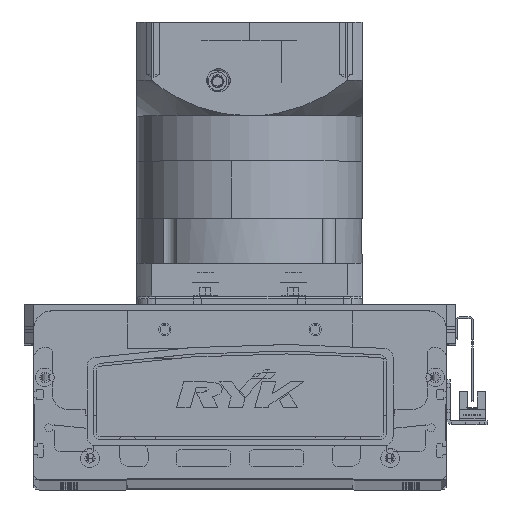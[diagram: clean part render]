
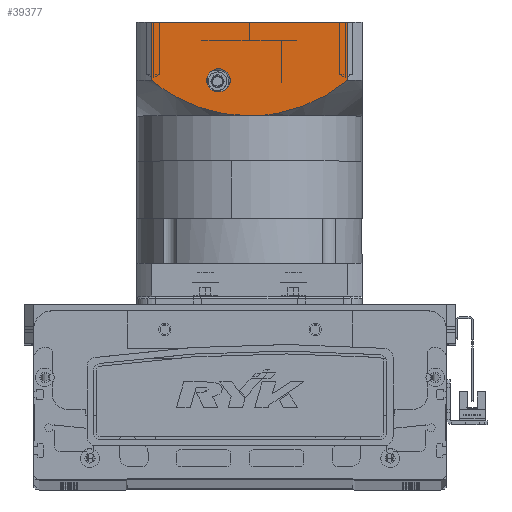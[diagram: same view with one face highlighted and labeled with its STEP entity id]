
A CAD part, top view. The second image highlights one B-rep face of the part: STEP entity #39377.
In plain terms, the highlighted planar face has unit normal (0, 0, 1) as drawn and (0, -1, 0) by its records, which use the part's own axes.
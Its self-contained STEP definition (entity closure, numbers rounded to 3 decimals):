
#897 = CARTESIAN_POINT ( 'NONE',  ( 44.553, -60., -113.817 ) ) ;
#1137 = CARTESIAN_POINT ( 'NONE',  ( 45.542, -60., -114.478 ) ) ;
#1233 = PLANE ( 'NONE',  #24707 ) ;
#1432 = FACE_BOUND ( 'NONE', #58437, .T. ) ;
#2197 = EDGE_CURVE ( 'NONE', #26131, #62816, #46557, .T. ) ;
#2869 = CARTESIAN_POINT ( 'NONE',  ( 36.444, -60., -108.986 ) ) ;
#3110 = ORIENTED_EDGE ( 'NONE', *, *, #5750, .F. ) ;
#5750 = EDGE_CURVE ( 'NONE', #40852, #45146, #63316, .T. ) ;
#5758 = CARTESIAN_POINT ( 'NONE',  ( -32.118, -60., -107.084 ) ) ;
#5813 = LINE ( 'NONE', #46230, #63894 ) ;
#7219 = CARTESIAN_POINT ( 'NONE',  ( -12.993, -60., -101.537 ) ) ;
#7521 = DIRECTION ( 'NONE',  ( 1., 0., 0. ) ) ;
#8304 = CARTESIAN_POINT ( 'NONE',  ( 23.329, -60., -103.886 ) ) ;
#10162 = CARTESIAN_POINT ( 'NONE',  ( 16.426, -60., -102.169 ) ) ;
#10940 = CARTESIAN_POINT ( 'NONE',  ( -35.342, -60., -108.587 ) ) ;
#11614 = DIRECTION ( 'NONE',  ( 0., 0., 1. ) ) ;
#12185 = ORIENTED_EDGE ( 'NONE', *, *, #2197, .T. ) ;
#12240 = CARTESIAN_POINT ( 'NONE',  ( 25.577, -60., -104.596 ) ) ;
#12482 = CARTESIAN_POINT ( 'NONE',  ( 48.457, -60., -116.522 ) ) ;
#17884 = CARTESIAN_POINT ( 'NONE',  ( 16.5, -60., -119.5 ) ) ;
#18233 = CARTESIAN_POINT ( 'NONE',  ( -60., -60., -150.5 ) ) ;
#18886 = VERTEX_POINT ( 'NONE', #65189 ) ;
#18960 = DIRECTION ( 'NONE',  ( 0., -1., 0. ) ) ;
#21964 = EDGE_LOOP ( 'NONE', ( #35895, #47818, #12185, #46658, #3110 ) ) ;
#23737 = CARTESIAN_POINT ( 'NONE',  ( -2.376, -60., -100.5 ) ) ;
#24285 = CARTESIAN_POINT ( 'NONE',  ( -52.156, -60., -150.5 ) ) ;
#24326 = DIRECTION ( 'NONE',  ( 0., 0., -1. ) ) ;
#24707 = AXIS2_PLACEMENT_3D ( 'NONE', #18233, #18960, #47200 ) ;
#26131 = VERTEX_POINT ( 'NONE', #70687 ) ;
#27887 = VERTEX_POINT ( 'NONE', #71859 ) ;
#28144 = VECTOR ( 'NONE', #45618, 1000. ) ;
#28177 = CARTESIAN_POINT ( 'NONE',  ( -52.156, -60., -119.5 ) ) ;
#28605 = CARTESIAN_POINT ( 'NONE',  ( 4.753, -60., -100.5 ) ) ;
#28958 = DIRECTION ( 'NONE',  ( 0., 0., -1. ) ) ;
#29208 = CARTESIAN_POINT ( 'NONE',  ( 52.156, -60., -150.5 ) ) ;
#29225 = CARTESIAN_POINT ( 'NONE',  ( 19.894, -60., -102.964 ) ) ;
#29623 = EDGE_CURVE ( 'NONE', #18886, #27887, #71205, .T. ) ;
#31196 = CARTESIAN_POINT ( 'NONE',  ( 42.555, -60., -112.543 ) ) ;
#33823 = CARTESIAN_POINT ( 'NONE',  ( -36.409, -60., -109.113 ) ) ;
#34524 = EDGE_CURVE ( 'NONE', #47699, #26131, #42357, .T. ) ;
#34534 = CARTESIAN_POINT ( 'NONE',  ( -4.747, -60., -100.604 ) ) ;
#34779 = CARTESIAN_POINT ( 'NONE',  ( -23.319, -60., -103.777 ) ) ;
#35895 = ORIENTED_EDGE ( 'NONE', *, *, #73037, .F. ) ;
#39377 = ADVANCED_FACE ( 'NONE', ( #62149, #1432 ), #1233, .T. ) ;
#40132 = CARTESIAN_POINT ( 'NONE',  ( 9.454, -60., -100.914 ) ) ;
#40852 = VERTEX_POINT ( 'NONE', #45632 ) ;
#42213 = CARTESIAN_POINT ( 'NONE',  ( 52.156, -60., -119.5 ) ) ;
#42357 = LINE ( 'NONE', #64061, #44127 ) ;
#44127 = VECTOR ( 'NONE', #7521, 1000. ) ;
#44376 = CIRCLE ( 'NONE', #55540, 6.25 ) ;
#44589 = CARTESIAN_POINT ( 'NONE',  ( -39.546, -60., -110.776 ) ) ;
#45146 = VERTEX_POINT ( 'NONE', #47497 ) ;
#45618 = DIRECTION ( 'NONE',  ( 0., 0., 1. ) ) ;
#45632 = CARTESIAN_POINT ( 'NONE',  ( -52.156, -60., -119.5 ) ) ;
#45888 = CARTESIAN_POINT ( 'NONE',  ( 18.739, -60., -102.681 ) ) ;
#46230 = CARTESIAN_POINT ( 'NONE',  ( -52.156, -60., -97.5 ) ) ;
#46557 = LINE ( 'NONE', #29208, #28144 ) ;
#46658 = ORIENTED_EDGE ( 'NONE', *, *, #59982, .F. ) ;
#47200 = DIRECTION ( 'NONE',  ( 1., 0., 0. ) ) ;
#47497 = CARTESIAN_POINT ( 'NONE',  ( 0., -60., -100.5 ) ) ;
#47699 = VERTEX_POINT ( 'NONE', #24285 ) ;
#47818 = ORIENTED_EDGE ( 'NONE', *, *, #34524, .T. ) ;
#47876 = CARTESIAN_POINT ( 'NONE',  ( 32.196, -60., -107.007 ) ) ;
#50039 = CARTESIAN_POINT ( 'NONE',  ( -48.52, -60., -116.438 ) ) ;
#50279 = CARTESIAN_POINT ( 'NONE',  ( -29.939, -60., -106.183 ) ) ;
#50514 = AXIS2_PLACEMENT_3D ( 'NONE', #17884, #50844, #28958 ) ;
#50844 = DIRECTION ( 'NONE',  ( 0., 1., 0. ) ) ;
#51447 = CARTESIAN_POINT ( 'NONE',  ( 15.267, -60., -101.938 ) ) ;
#51588 = CARTESIAN_POINT ( 'NONE',  ( 41.545, -60., -111.931 ) ) ;
#51944 = CARTESIAN_POINT ( 'NONE',  ( 52.156, -60., -119.5 ) ) ;
#55295 = B_SPLINE_CURVE_WITH_KNOTS ( 'NONE', 3,
 ( #62276, #28605, #40132, #51447, #10162, #45888, #29225, #8304, #12240, #47876, #2869, #51588, #31196, #897, #1137, #12482, #64874, #42213 ),
 .UNSPECIFIED., .F., .F.,
 ( 4, 2, 2, 2, 2, 2, 2, 2, 4 ),
 ( 0., 0.014, 0.018, 0.021, 0.028, 0.042, 0.046, 0.05, 0.057 ),
 .UNSPECIFIED. ) ;
#55540 = AXIS2_PLACEMENT_3D ( 'NONE', #58221, #69090, #24326 ) ;
#55704 = CARTESIAN_POINT ( 'NONE',  ( -44.656, -60., -113.73 ) ) ;
#57372 = CARTESIAN_POINT ( 'NONE',  ( -18.792, -60., -102.562 ) ) ;
#57835 = EDGE_CURVE ( 'NONE', #27887, #18886, #44376, .T. ) ;
#58221 = CARTESIAN_POINT ( 'NONE',  ( 16.5, -60., -119.5 ) ) ;
#58437 = EDGE_LOOP ( 'NONE', ( #70860, #63587 ) ) ;
#59982 = EDGE_CURVE ( 'NONE', #45146, #62816, #55295, .T. ) ;
#62149 = FACE_OUTER_BOUND ( 'NONE', #21964, .T. ) ;
#62276 = CARTESIAN_POINT ( 'NONE',  ( 0., -60., -100.5 ) ) ;
#62816 = VERTEX_POINT ( 'NONE', #51944 ) ;
#63316 = B_SPLINE_CURVE_WITH_KNOTS ( 'NONE', 3,
 ( #28177, #50039, #55704, #44589, #67026, #33823, #10940, #5758, #50279, #34779, #57372, #7219, #69215, #68973, #68472, #34534, #23737, #63534 ),
 .UNSPECIFIED., .F., .F.,
 ( 4, 2, 2, 2, 2, 2, 2, 2, 4 ),
 ( 0., 0.014, 0.018, 0.021, 0.028, 0.042, 0.046, 0.05, 0.057 ),
 .UNSPECIFIED. ) ;
#63534 = CARTESIAN_POINT ( 'NONE',  ( 0., -60., -100.5 ) ) ;
#63587 = ORIENTED_EDGE ( 'NONE', *, *, #57835, .T. ) ;
#63894 = VECTOR ( 'NONE', #11614, 1000. ) ;
#64061 = CARTESIAN_POINT ( 'NONE',  ( -60., -60., -150.5 ) ) ;
#64874 = CARTESIAN_POINT ( 'NONE',  ( 50.338, -60., -117.969 ) ) ;
#65189 = CARTESIAN_POINT ( 'NONE',  ( 16.5, -60., -125.75 ) ) ;
#67026 = CARTESIAN_POINT ( 'NONE',  ( -38.51, -60., -110.207 ) ) ;
#68472 = CARTESIAN_POINT ( 'NONE',  ( -8.294, -60., -100.916 ) ) ;
#68973 = CARTESIAN_POINT ( 'NONE',  ( -9.477, -60., -101.046 ) ) ;
#69090 = DIRECTION ( 'NONE',  ( 0., 1., 0. ) ) ;
#69215 = CARTESIAN_POINT ( 'NONE',  ( -11.825, -60., -101.356 ) ) ;
#70687 = CARTESIAN_POINT ( 'NONE',  ( 52.156, -60., -150.5 ) ) ;
#70860 = ORIENTED_EDGE ( 'NONE', *, *, #29623, .T. ) ;
#71205 = CIRCLE ( 'NONE', #50514, 6.25 ) ;
#71859 = CARTESIAN_POINT ( 'NONE',  ( 16.5, -60., -113.25 ) ) ;
#73037 = EDGE_CURVE ( 'NONE', #47699, #40852, #5813, .T. ) ;
